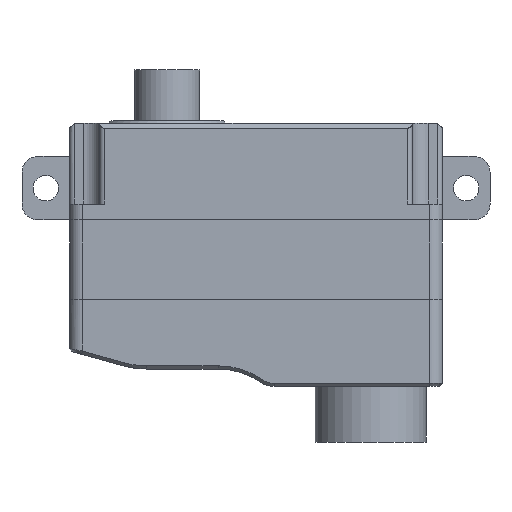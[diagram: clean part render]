
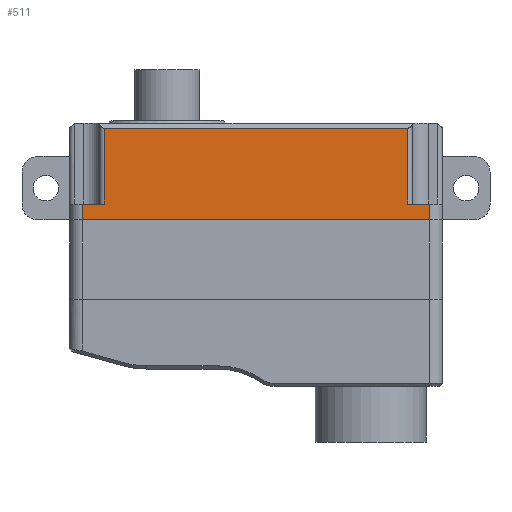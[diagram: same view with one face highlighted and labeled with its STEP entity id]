
A CAD part, front view. The second image highlights one B-rep face of the part: STEP entity #511.
In plain terms, the highlighted planar face has unit normal (0, -1, 0).
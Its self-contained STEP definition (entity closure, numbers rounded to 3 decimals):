
#511=ADVANCED_FACE('',(#837),#729,.T.);
#729=PLANE('',#4041);
#837=FACE_OUTER_BOUND('',#1037,.T.);
#1037=EDGE_LOOP('',(#1341,#1342,#1343,#1344,#1345,#1346,#1347,#1348));
#1341=ORIENTED_EDGE('',*,*,#2824,.T.);
#1342=ORIENTED_EDGE('',*,*,#2837,.T.);
#1343=ORIENTED_EDGE('',*,*,#2838,.T.);
#1344=ORIENTED_EDGE('',*,*,#2839,.F.);
#1345=ORIENTED_EDGE('',*,*,#2840,.F.);
#1346=ORIENTED_EDGE('',*,*,#2841,.F.);
#1347=ORIENTED_EDGE('',*,*,#2842,.T.);
#1348=ORIENTED_EDGE('',*,*,#2843,.T.);
#2451=VERTEX_POINT('',#5700);
#2452=VERTEX_POINT('',#5702);
#2461=VERTEX_POINT('',#5726);
#2462=VERTEX_POINT('',#5728);
#2463=VERTEX_POINT('',#5730);
#2464=VERTEX_POINT('',#5732);
#2465=VERTEX_POINT('',#5734);
#2466=VERTEX_POINT('',#5736);
#2824=EDGE_CURVE('',#2452,#2451,#3381,.T.);
#2837=EDGE_CURVE('',#2451,#2461,#3392,.T.);
#2838=EDGE_CURVE('',#2461,#2462,#3393,.T.);
#2839=EDGE_CURVE('',#2463,#2462,#3394,.T.);
#2840=EDGE_CURVE('',#2464,#2463,#3395,.T.);
#2841=EDGE_CURVE('',#2465,#2464,#3396,.T.);
#2842=EDGE_CURVE('',#2465,#2466,#3397,.T.);
#2843=EDGE_CURVE('',#2466,#2452,#3398,.T.);
#3381=LINE('',#5701,#3716);
#3392=LINE('',#5725,#3727);
#3393=LINE('',#5727,#3728);
#3394=LINE('',#5729,#3729);
#3395=LINE('',#5731,#3730);
#3396=LINE('',#5733,#3731);
#3397=LINE('',#5735,#3732);
#3398=LINE('',#5737,#3733);
#3716=VECTOR('',#4493,1.);
#3727=VECTOR('',#4512,1.);
#3728=VECTOR('',#4513,1.);
#3729=VECTOR('',#4514,1.);
#3730=VECTOR('',#4515,1.);
#3731=VECTOR('',#4516,1.);
#3732=VECTOR('',#4517,1.);
#3733=VECTOR('',#4518,1.);
#4041=AXIS2_PLACEMENT_3D('',#5738,#4519,#4520);
#4493=DIRECTION('',(1.,0.,0.));
#4512=DIRECTION('',(0.,0.,1.));
#4513=DIRECTION('',(-1.,0.,0.));
#4514=DIRECTION('',(0.,0.,-1.));
#4515=DIRECTION('',(1.,0.,0.));
#4516=DIRECTION('',(0.,0.,1.));
#4517=DIRECTION('',(-1.,0.,0.));
#4518=DIRECTION('',(0.,0.,-1.));
#4519=DIRECTION('',(0.,-1.,0.));
#4520=DIRECTION('',(1.,0.,0.));
#5700=CARTESIAN_POINT('',(10.95,-4.,-6.1));
#5701=CARTESIAN_POINT('',(-13.75,-4.,-6.1));
#5702=CARTESIAN_POINT('',(-10.95,-4.,-6.1));
#5725=CARTESIAN_POINT('',(10.95,-4.,-5.1));
#5726=CARTESIAN_POINT('',(10.95,-4.,-5.1));
#5727=CARTESIAN_POINT('',(13.75,-4.,-5.1));
#5728=CARTESIAN_POINT('',(9.55,-4.,-5.1));
#5729=CARTESIAN_POINT('',(9.55,-4.,-0.6));
#5730=CARTESIAN_POINT('',(9.55,-4.,-0.317));
#5731=CARTESIAN_POINT('',(-14.3,-4.,-0.317));
#5732=CARTESIAN_POINT('',(-9.55,-4.,-0.317));
#5733=CARTESIAN_POINT('',(-9.55,-4.,-5.1));
#5734=CARTESIAN_POINT('',(-9.55,-4.,-5.1));
#5735=CARTESIAN_POINT('',(-9.55,-4.,-5.1));
#5736=CARTESIAN_POINT('',(-10.95,-4.,-5.1));
#5737=CARTESIAN_POINT('',(-10.95,-4.,-6.1));
#5738=CARTESIAN_POINT('',(-14.3,-4.,-8.25));
